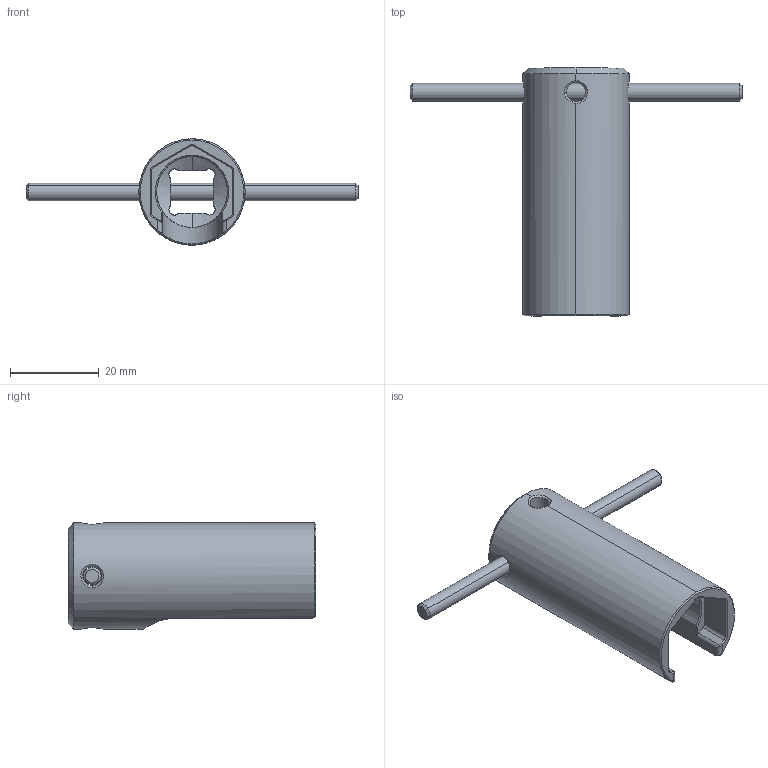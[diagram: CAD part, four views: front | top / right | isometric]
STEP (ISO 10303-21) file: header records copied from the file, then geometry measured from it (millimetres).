
FILE_DESCRIPTION (( 'STEP AP214' ), '1' );
FILE_NAME ('WLP-18MM-PLUG-WRENCH-PUBLIC.step', '2021-08-13T00:02:45', ( '' ), ( '' ), 'SwSTEP 2.0', 'SolidWorks 2020', '' );
FILE_SCHEMA (( 'AUTOMOTIVE_DESIGN' ));
Length unit declared in the file: foot
Products named in the file (1): WLP-18MM-PLUG-WRENCH-PUBLIC
Bounding box: 75 x 56 x 24 mm (x, y, z)
Volume: 12853.8 mm3; surface area: 7974.2 mm2
Topology: 2 solids, 2 shells, 86 faces, 225 edges, 140 vertices
Faces by surface type: cylinder 30, plane 27, cone 18, bspline 11
Entity records: 9998 total; most frequent: CARTESIAN_POINT 6869, ORIENTED_EDGE 450, DIRECTION 343, EDGE_CURVE 225, VERTEX_POINT 140, AXIS2_PLACEMENT_3D 124, VECTOR 95, LINE 95
